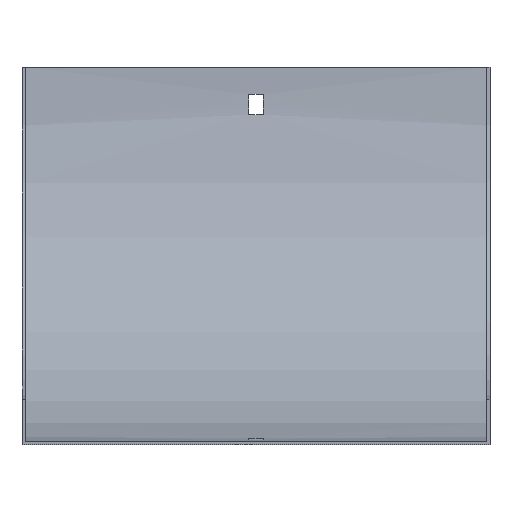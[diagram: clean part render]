
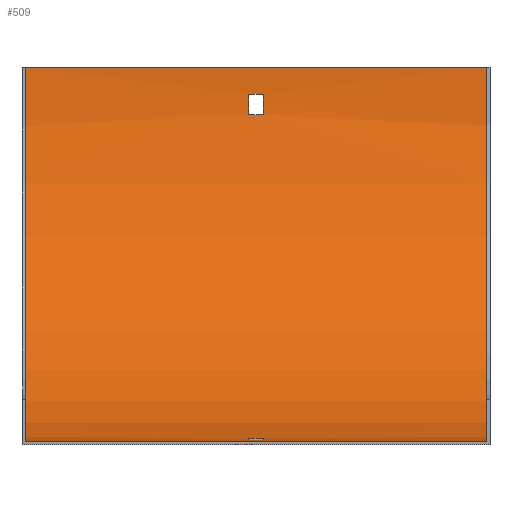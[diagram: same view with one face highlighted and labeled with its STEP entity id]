
A CAD part, front view. The second image highlights one B-rep face of the part: STEP entity #509.
In plain terms, the highlighted cylindrical face has radius 165.5 mm (diameter 331 mm), a partial arc.
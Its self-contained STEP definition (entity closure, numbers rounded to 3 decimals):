
#7 = DIRECTION ( 'NONE',  ( 0., 0., -1. ) ) ;
#14 = VECTOR ( 'NONE', #160, 1000. ) ;
#18 = CARTESIAN_POINT ( 'NONE',  ( 3.25, -167., 0. ) ) ;
#19 = VERTEX_POINT ( 'NONE', #511 ) ;
#42 = DIRECTION ( 'NONE',  ( 1., 0., 0. ) ) ;
#48 = AXIS2_PLACEMENT_3D ( 'NONE', #355, #172, #178 ) ;
#57 = CARTESIAN_POINT ( 'NONE',  ( -102., -167., -165.5 ) ) ;
#58 = VECTOR ( 'NONE', #264, 1000. ) ;
#69 = AXIS2_PLACEMENT_3D ( 'NONE', #18, #216, #395 ) ;
#80 = AXIS2_PLACEMENT_3D ( 'NONE', #523, #330, #7 ) ;
#84 = EDGE_CURVE ( 'NONE', #390, #19, #318, .T. ) ;
#85 = ORIENTED_EDGE ( 'NONE', *, *, #595, .T. ) ;
#87 = CARTESIAN_POINT ( 'NONE',  ( -3.25, -2.838, -21. ) ) ;
#95 = DIRECTION ( 'NONE',  ( -1., 0., 0. ) ) ;
#100 = CARTESIAN_POINT ( 'NONE',  ( 102., -167., -165.5 ) ) ;
#102 = ORIENTED_EDGE ( 'NONE', *, *, #84, .F. ) ;
#103 = EDGE_CURVE ( 'NONE', #123, #390, #541, .T. ) ;
#122 = AXIS2_PLACEMENT_3D ( 'NONE', #512, #95, #237 ) ;
#123 = VERTEX_POINT ( 'NONE', #87 ) ;
#126 = CARTESIAN_POINT ( 'NONE',  ( 103.5, -2.838, -21. ) ) ;
#135 = AXIS2_PLACEMENT_3D ( 'NONE', #572, #419, #475 ) ;
#144 = EDGE_CURVE ( 'NONE', #455, #167, #225, .T. ) ;
#149 = CARTESIAN_POINT ( 'NONE',  ( -3.25, -1.936, -12. ) ) ;
#150 = VERTEX_POINT ( 'NONE', #342 ) ;
#152 = CARTESIAN_POINT ( 'NONE',  ( -102., -1.5, 0. ) ) ;
#160 = DIRECTION ( 'NONE',  ( -1., 0., 0. ) ) ;
#167 = VERTEX_POINT ( 'NONE', #505 ) ;
#171 = CARTESIAN_POINT ( 'NONE',  ( 102., -1.5, 0. ) ) ;
#172 = DIRECTION ( 'NONE',  ( 1., 0., 0. ) ) ;
#178 = DIRECTION ( 'NONE',  ( 0., 0., 1. ) ) ;
#181 = DIRECTION ( 'NONE',  ( 0., 0., 1. ) ) ;
#196 = VERTEX_POINT ( 'NONE', #605 ) ;
#197 = CYLINDRICAL_SURFACE ( 'NONE', #122, 165.5 ) ;
#210 = ORIENTED_EDGE ( 'NONE', *, *, #348, .T. ) ;
#212 = LINE ( 'NONE', #367, #604 ) ;
#213 = ORIENTED_EDGE ( 'NONE', *, *, #429, .F. ) ;
#215 = ORIENTED_EDGE ( 'NONE', *, *, #144, .T. ) ;
#216 = DIRECTION ( 'NONE',  ( 1., 0., 0. ) ) ;
#219 = ORIENTED_EDGE ( 'NONE', *, *, #599, .T. ) ;
#225 = LINE ( 'NONE', #403, #14 ) ;
#231 = CARTESIAN_POINT ( 'NONE',  ( 3.25, -146., -164.162 ) ) ;
#232 = CIRCLE ( 'NONE', #424, 165.5 ) ;
#233 = LINE ( 'NONE', #402, #380 ) ;
#234 = EDGE_CURVE ( 'NONE', #196, #468, #244, .T. ) ;
#237 = DIRECTION ( 'NONE',  ( 0., 0., 1. ) ) ;
#244 = LINE ( 'NONE', #416, #366 ) ;
#252 = ORIENTED_EDGE ( 'NONE', *, *, #590, .F. ) ;
#255 = ORIENTED_EDGE ( 'NONE', *, *, #234, .T. ) ;
#264 = DIRECTION ( 'NONE',  ( 1., 0., 0. ) ) ;
#269 = AXIS2_PLACEMENT_3D ( 'NONE', #539, #42, #347 ) ;
#282 = VECTOR ( 'NONE', #306, 1000. ) ;
#283 = VERTEX_POINT ( 'NONE', #152 ) ;
#300 = VERTEX_POINT ( 'NONE', #57 ) ;
#302 = ORIENTED_EDGE ( 'NONE', *, *, #533, .F. ) ;
#304 = ORIENTED_EDGE ( 'NONE', *, *, #103, .F. ) ;
#306 = DIRECTION ( 'NONE',  ( -1., 0., 0. ) ) ;
#311 = ORIENTED_EDGE ( 'NONE', *, *, #376, .F. ) ;
#318 = CIRCLE ( 'NONE', #69, 165.5 ) ;
#323 = FACE_BOUND ( 'NONE', #389, .T. ) ;
#328 = FACE_BOUND ( 'NONE', #563, .T. ) ;
#330 = DIRECTION ( 'NONE',  ( 1., 0., 0. ) ) ;
#332 = EDGE_CURVE ( 'NONE', #150, #283, #586, .T. ) ;
#342 = CARTESIAN_POINT ( 'NONE',  ( 102., -1.5, 0. ) ) ;
#347 = DIRECTION ( 'NONE',  ( 0., 0., 1. ) ) ;
#348 = EDGE_CURVE ( 'NONE', #167, #196, #449, .T. ) ;
#355 = CARTESIAN_POINT ( 'NONE',  ( 102., -167., 0. ) ) ;
#361 = DIRECTION ( 'NONE',  ( -1., 0., 0. ) ) ;
#366 = VECTOR ( 'NONE', #607, 1000. ) ;
#367 = CARTESIAN_POINT ( 'NONE',  ( 103.5, -1.936, -12. ) ) ;
#376 = EDGE_CURVE ( 'NONE', #404, #123, #412, .T. ) ;
#377 = CARTESIAN_POINT ( 'NONE',  ( 3.25, -2.838, -21. ) ) ;
#380 = VECTOR ( 'NONE', #589, 1000. ) ;
#389 = EDGE_LOOP ( 'NONE', ( #215, #210, #255, #85 ) ) ;
#390 = VERTEX_POINT ( 'NONE', #377 ) ;
#395 = DIRECTION ( 'NONE',  ( 0., 0., -1. ) ) ;
#402 = CARTESIAN_POINT ( 'NONE',  ( 102., -167., -165.5 ) ) ;
#403 = CARTESIAN_POINT ( 'NONE',  ( 103.5, -155., -165.064 ) ) ;
#404 = VERTEX_POINT ( 'NONE', #149 ) ;
#412 = CIRCLE ( 'NONE', #135, 165.5 ) ;
#416 = CARTESIAN_POINT ( 'NONE',  ( 103.5, -146., -164.162 ) ) ;
#419 = DIRECTION ( 'NONE',  ( -1., 0., 0. ) ) ;
#424 = AXIS2_PLACEMENT_3D ( 'NONE', #598, #587, #181 ) ;
#429 = EDGE_CURVE ( 'NONE', #19, #404, #212, .T. ) ;
#437 = VERTEX_POINT ( 'NONE', #100 ) ;
#449 = CIRCLE ( 'NONE', #80, 165.5 ) ;
#455 = VERTEX_POINT ( 'NONE', #602 ) ;
#462 = EDGE_LOOP ( 'NONE', ( #302, #252, #219, #550 ) ) ;
#468 = VERTEX_POINT ( 'NONE', #231 ) ;
#475 = DIRECTION ( 'NONE',  ( 0., 0., 1. ) ) ;
#505 = CARTESIAN_POINT ( 'NONE',  ( -3.25, -155., -165.064 ) ) ;
#506 = CIRCLE ( 'NONE', #48, 165.5 ) ;
#509 = ADVANCED_FACE ( 'NONE', ( #328, #555, #323 ), #197, .F. ) ;
#511 = CARTESIAN_POINT ( 'NONE',  ( 3.25, -1.936, -12. ) ) ;
#512 = CARTESIAN_POINT ( 'NONE',  ( 103.5, -167., 0. ) ) ;
#518 = CIRCLE ( 'NONE', #269, 165.5 ) ;
#523 = CARTESIAN_POINT ( 'NONE',  ( -3.25, -167., 0. ) ) ;
#533 = EDGE_CURVE ( 'NONE', #300, #283, #518, .T. ) ;
#539 = CARTESIAN_POINT ( 'NONE',  ( -102., -167., 0. ) ) ;
#541 = LINE ( 'NONE', #126, #58 ) ;
#550 = ORIENTED_EDGE ( 'NONE', *, *, #332, .T. ) ;
#555 = FACE_OUTER_BOUND ( 'NONE', #462, .T. ) ;
#563 = EDGE_LOOP ( 'NONE', ( #311, #213, #102, #304 ) ) ;
#572 = CARTESIAN_POINT ( 'NONE',  ( -3.25, -167., 0. ) ) ;
#586 = LINE ( 'NONE', #171, #282 ) ;
#587 = DIRECTION ( 'NONE',  ( -1., 0., 0. ) ) ;
#589 = DIRECTION ( 'NONE',  ( -1., 0., 0. ) ) ;
#590 = EDGE_CURVE ( 'NONE', #437, #300, #233, .T. ) ;
#595 = EDGE_CURVE ( 'NONE', #468, #455, #232, .T. ) ;
#598 = CARTESIAN_POINT ( 'NONE',  ( 3.25, -167., 0. ) ) ;
#599 = EDGE_CURVE ( 'NONE', #437, #150, #506, .T. ) ;
#602 = CARTESIAN_POINT ( 'NONE',  ( 3.25, -155., -165.064 ) ) ;
#604 = VECTOR ( 'NONE', #361, 1000. ) ;
#605 = CARTESIAN_POINT ( 'NONE',  ( -3.25, -146., -164.162 ) ) ;
#607 = DIRECTION ( 'NONE',  ( 1., 0., 0. ) ) ;
